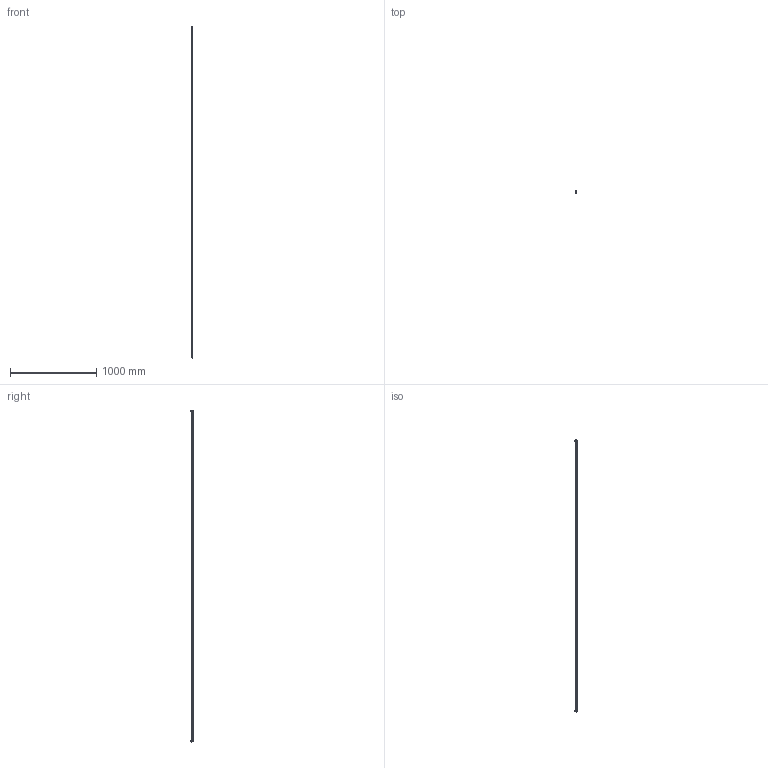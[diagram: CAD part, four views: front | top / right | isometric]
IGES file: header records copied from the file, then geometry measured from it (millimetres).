
Start section: 3D InterOp IGES (v. 2019 1.0.2), Spatial Corp. Copyright (c) 1999-2017.
Global section: file name: R1605.3_size15.igs; native system: Spatial Corp.; preprocessor: 3D InterOp GENERIC/IGES 3.0; author: Noname; organization: Noname; date: 20220629.163426; units: millimetre
Bounding box: 22 x 23.65 x 3840.3 mm (x, y, z)
Surface area: 388162.8 mm2 (no closed solid volume)
Topology: 0 solids, 0 shells, 648 faces, 3276 edges, 3272 vertices
Faces by surface type: revolution 388, extrusion 260
